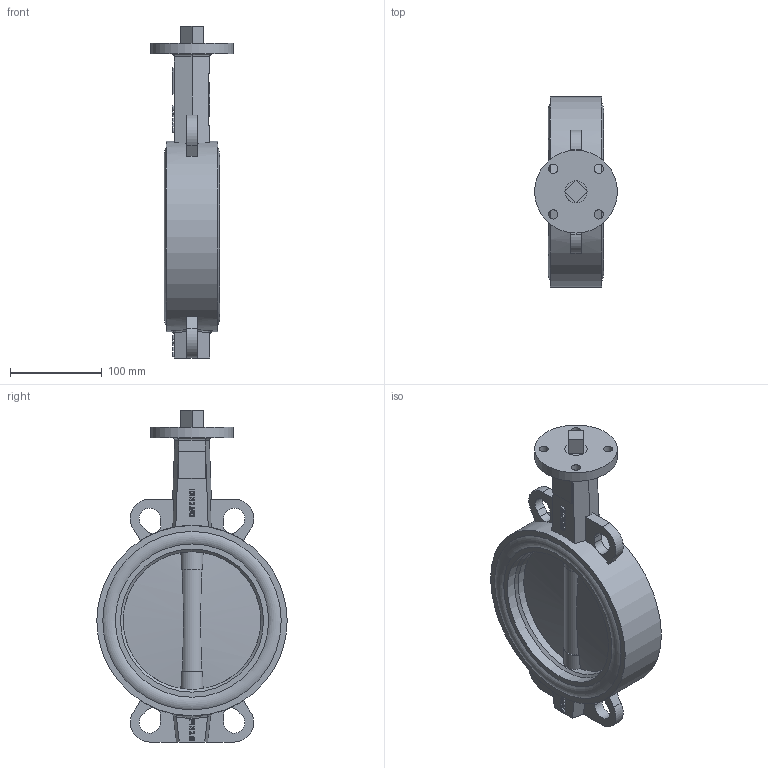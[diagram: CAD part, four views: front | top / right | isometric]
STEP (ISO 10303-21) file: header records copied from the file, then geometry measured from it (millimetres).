
FILE_DESCRIPTION(('STEP AP242'), '1');
FILE_NAME('Ïîâîðîòíûé çàòâîð ïîä ýëåêòðîïðèâîä', '', ('UNSPECIFIED'), ('UNSPECIFIED'), 'C3D Converter', 'C3D Toolkit', '');
FILE_SCHEMA(('AP242_MANAGED_MODEL_BASED_3D_ENGINEERING_MIM_LF { 1 0 10303 442 1 1 4 }'));
Length unit declared in the file: millimetre
Products named in the file (6): П
Assembly tree (6 placements, depth 2):
  (unnamed)
    (unnamed)
    П  x2
    (unnamed)
    (unnamed)
    (unnamed)
Bounding box: 90 x 207 x 361 mm (x, y, z)
Volume: 1444767.8 mm3; surface area: 331311.1 mm2
Topology: 6 solids, 6 shells, 412 faces, 1098 edges, 722 vertices
Faces by surface type: plane 200, extrusion 139, cylinder 57, bspline 4, torus 4, cone 4, sphere 4
Full cylindrical faces by diameter (mm): 10 x4, 11.421 x1, 17 x6, 24.042 x5, 26.41 x4, 90 x1, 150 x1, 155.56 x2, 166.68 x2, 180.353 x4, 194.027 x4, 207 x1
Entity records: 17384 total; most frequent: CARTESIAN_POINT 5550, ORIENTED_EDGE 2096, DIRECTION 1530, EDGE_CURVE 1048, VERTEX_POINT 717, VECTOR 704, LINE 565, EDGE_LOOP 505
